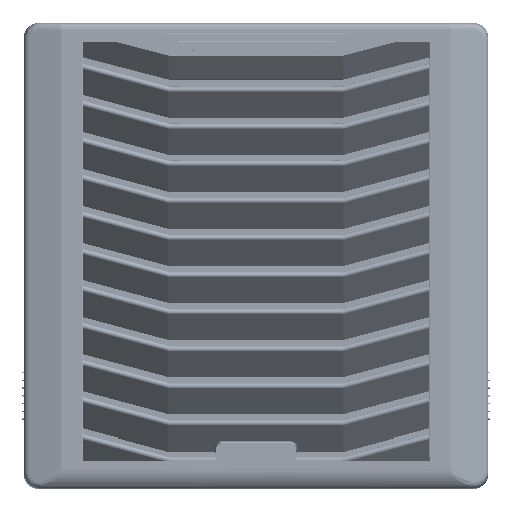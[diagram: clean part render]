
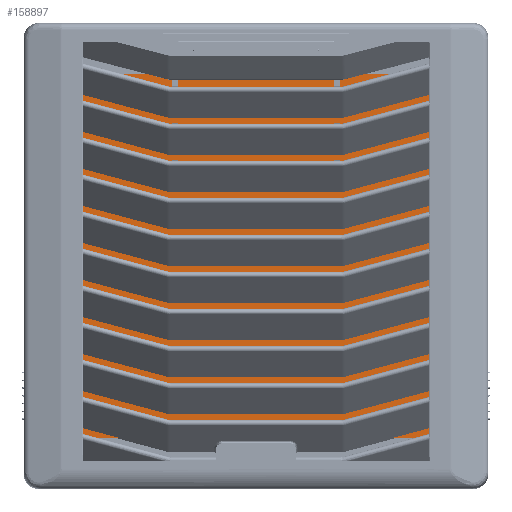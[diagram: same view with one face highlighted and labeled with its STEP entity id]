
A CAD part, top view. The second image highlights one B-rep face of the part: STEP entity #158897.
In plain terms, the highlighted planar face has unit normal (0, 0, 1) as drawn and (0, 0, -1) by its records, which use the part's own axes.
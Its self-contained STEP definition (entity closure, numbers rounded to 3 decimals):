
#10432=PLANE('',#169640);
#19216=FACE_OUTER_BOUND('',#29151,.T.);
#29151=EDGE_LOOP('',(#121710,#121711,#121712,#121713));
#42657=LINE('',#236799,#55802);
#42661=LINE('',#236807,#55806);
#42664=LINE('',#236813,#55809);
#42667=LINE('',#236818,#55812);
#55802=VECTOR('',#189438,10.);
#55806=VECTOR('',#189444,10.);
#55809=VECTOR('',#189449,10.);
#55812=VECTOR('',#189454,10.);
#72269=VERTEX_POINT('',#236797);
#72270=VERTEX_POINT('',#236798);
#72273=VERTEX_POINT('',#236806);
#72275=VERTEX_POINT('',#236812);
#89988=EDGE_CURVE('',#72269,#72270,#42657,.T.);
#89992=EDGE_CURVE('',#72270,#72273,#42661,.T.);
#89995=EDGE_CURVE('',#72273,#72275,#42664,.T.);
#89998=EDGE_CURVE('',#72275,#72269,#42667,.T.);
#121710=ORIENTED_EDGE('',*,*,#89998,.T.);
#121711=ORIENTED_EDGE('',*,*,#89988,.T.);
#121712=ORIENTED_EDGE('',*,*,#89992,.T.);
#121713=ORIENTED_EDGE('',*,*,#89995,.T.);
#158897=ADVANCED_FACE('',(#19216),#10432,.F.);
#169640=AXIS2_PLACEMENT_3D('',#236820,#189456,#189457);
#189438=DIRECTION('',(0.,-1.,0.));
#189444=DIRECTION('',(-1.,0.,0.));
#189449=DIRECTION('',(0.,1.,0.));
#189454=DIRECTION('',(1.,0.,0.));
#189456=DIRECTION('center_axis',(0.,0.,1.));
#189457=DIRECTION('ref_axis',(1.,0.,0.));
#236797=CARTESIAN_POINT('',(56.,58.,0.));
#236798=CARTESIAN_POINT('',(56.,-58.,0.));
#236799=CARTESIAN_POINT('',(56.,58.,0.));
#236806=CARTESIAN_POINT('',(-56.,-58.,0.));
#236807=CARTESIAN_POINT('',(56.,-58.,0.));
#236812=CARTESIAN_POINT('',(-56.,58.,0.));
#236813=CARTESIAN_POINT('',(-56.,-58.,0.));
#236818=CARTESIAN_POINT('',(-56.,58.,0.));
#236820=CARTESIAN_POINT('Origin',(0.,0.,0.));
